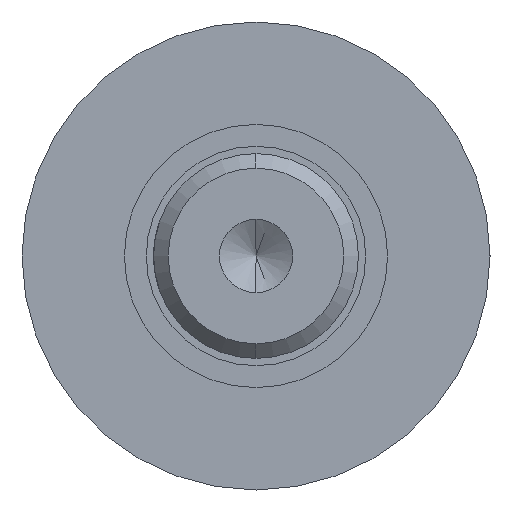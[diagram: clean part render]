
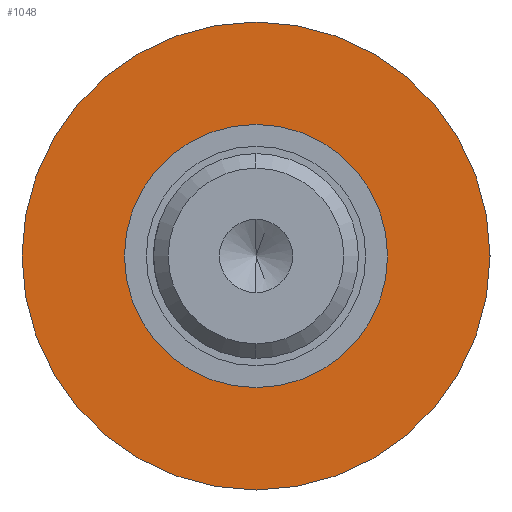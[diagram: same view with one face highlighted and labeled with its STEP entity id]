
A CAD part, left-side view. The second image highlights one B-rep face of the part: STEP entity #1048.
In plain terms, the highlighted planar face has unit normal (-1, 0, 0).
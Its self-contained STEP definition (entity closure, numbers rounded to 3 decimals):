
#38 = DIRECTION ( 'NONE',  ( 1., 0., 0. ) ) ;
#86 = ORIENTED_EDGE ( 'NONE', *, *, #1345, .F. ) ;
#98 = FACE_BOUND ( 'NONE', #853, .T. ) ;
#139 = CARTESIAN_POINT ( 'NONE',  ( 97.5, 0., -9. ) ) ;
#192 = AXIS2_PLACEMENT_3D ( 'NONE', #651, #220, #333 ) ;
#203 = DIRECTION ( 'NONE',  ( 0., 0., -1. ) ) ;
#220 = DIRECTION ( 'NONE',  ( -1., 0., 0. ) ) ;
#304 = CARTESIAN_POINT ( 'NONE',  ( 97.5, 0., -16. ) ) ;
#325 = CIRCLE ( 'NONE', #967, 9. ) ;
#333 = DIRECTION ( 'NONE',  ( 0., 0., 1. ) ) ;
#345 = CIRCLE ( 'NONE', #1225, 16. ) ;
#430 = EDGE_LOOP ( 'NONE', ( #86, #482 ) ) ;
#446 = VERTEX_POINT ( 'NONE', #821 ) ;
#473 = EDGE_CURVE ( 'NONE', #446, #1266, #325, .T. ) ;
#482 = ORIENTED_EDGE ( 'NONE', *, *, #1105, .F. ) ;
#496 = EDGE_CURVE ( 'NONE', #1266, #446, #1221, .T. ) ;
#515 = VERTEX_POINT ( 'NONE', #304 ) ;
#539 = PLANE ( 'NONE',  #192 ) ;
#614 = CARTESIAN_POINT ( 'NONE',  ( 97.5, 0., 0. ) ) ;
#630 = FACE_OUTER_BOUND ( 'NONE', #430, .T. ) ;
#651 = CARTESIAN_POINT ( 'NONE',  ( 97.5, 16., 0. ) ) ;
#704 = VERTEX_POINT ( 'NONE', #899 ) ;
#779 = AXIS2_PLACEMENT_3D ( 'NONE', #614, #966, #203 ) ;
#821 = CARTESIAN_POINT ( 'NONE',  ( 97.5, 0., 9. ) ) ;
#853 = EDGE_LOOP ( 'NONE', ( #1291, #1047 ) ) ;
#868 = CIRCLE ( 'NONE', #1099, 16. ) ;
#899 = CARTESIAN_POINT ( 'NONE',  ( 97.5, 0., 16. ) ) ;
#966 = DIRECTION ( 'NONE',  ( 1., 0., 0. ) ) ;
#967 = AXIS2_PLACEMENT_3D ( 'NONE', #1369, #1155, #1374 ) ;
#1025 = CARTESIAN_POINT ( 'NONE',  ( 97.5, 0., 0. ) ) ;
#1031 = DIRECTION ( 'NONE',  ( 0., 0., -1. ) ) ;
#1047 = ORIENTED_EDGE ( 'NONE', *, *, #473, .T. ) ;
#1048 = ADVANCED_FACE ( 'NONE', ( #98, #630 ), #539, .T. ) ;
#1095 = DIRECTION ( 'NONE',  ( 1., 0., 0. ) ) ;
#1099 = AXIS2_PLACEMENT_3D ( 'NONE', #1025, #38, #1031 ) ;
#1105 = EDGE_CURVE ( 'NONE', #704, #515, #345, .T. ) ;
#1155 = DIRECTION ( 'NONE',  ( 1., 0., 0. ) ) ;
#1221 = CIRCLE ( 'NONE', #779, 9. ) ;
#1225 = AXIS2_PLACEMENT_3D ( 'NONE', #1307, #1095, #1327 ) ;
#1266 = VERTEX_POINT ( 'NONE', #139 ) ;
#1291 = ORIENTED_EDGE ( 'NONE', *, *, #496, .T. ) ;
#1307 = CARTESIAN_POINT ( 'NONE',  ( 97.5, 0., 0. ) ) ;
#1327 = DIRECTION ( 'NONE',  ( 0., 0., -1. ) ) ;
#1345 = EDGE_CURVE ( 'NONE', #515, #704, #868, .T. ) ;
#1369 = CARTESIAN_POINT ( 'NONE',  ( 97.5, 0., 0. ) ) ;
#1374 = DIRECTION ( 'NONE',  ( 0., 0., -1. ) ) ;
